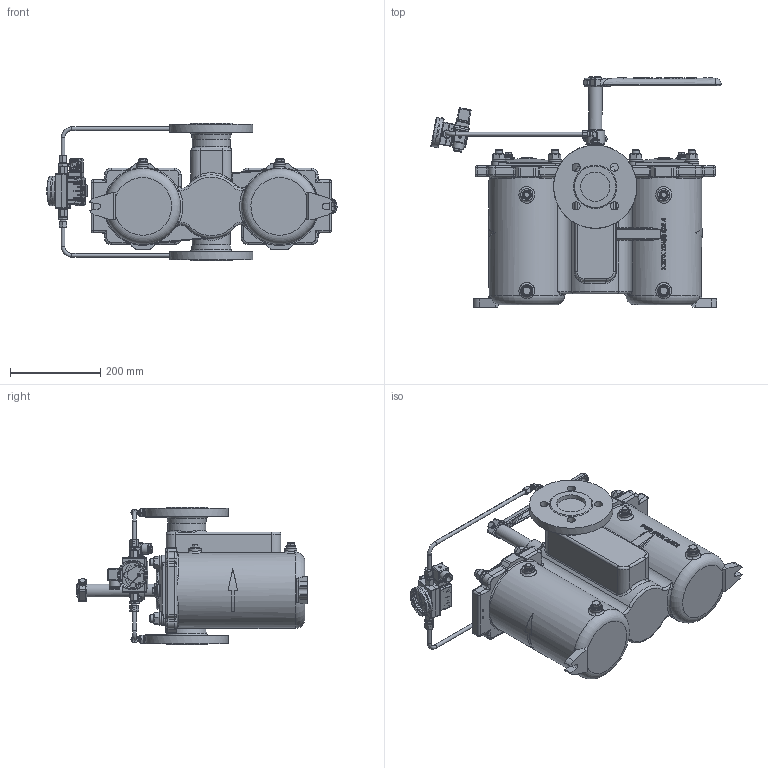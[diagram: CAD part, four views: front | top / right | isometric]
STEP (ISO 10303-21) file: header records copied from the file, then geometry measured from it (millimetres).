
FILE_DESCRIPTION(/* description */ (''),/* implementation_level */ '2;1');
FILE_NAME(/* name */ 'K:\10 - AutoCAD\KDF\KDFK\00_Z.Bau\Modell\Dummy\Dummy_KDFK050.04.05.16.00.01_S.stp',/* time_stamp */ '2015-06-22T12:29:38+02:00',/* author */ ('Eylers'),/* organization */ (''),/* preprocessor_version */ 'ST-DEVELOPER v15.6',/* originating_system */ 'Autodesk Inventor 2015',/* authorisation */ '');
FILE_SCHEMA (('AUTOMOTIVE_DESIGN { 1 0 10303 214 3 1 1 }'));
Products named in the file (1): Dummy_KDFK050.04.05.16.00.01_S
Bounding box: 644.53 x 511.1 x 305 mm (x, y, z)
Volume: 12784.7 mm3; surface area: 984606.1 mm2
Topology: 23 solids, 26 shells, 4520 faces, 11845 edges, 7602 vertices
Faces by surface type: plane 2261, bspline 908, cylinder 844, cone 330, torus 141, sphere 36
Full cylindrical faces by diameter (mm): 0.001 x1, 0.5 x2, 0.6 x1, 1.3 x1, 1.9 x2, 1.921 x1, 2.1 x3, 2.443 x2, 2.5 x9, 2.6 x2, 2.7 x2, 3 x14, 3.1 x7, 3.2 x3, 3.36 x2, 3.4 x1, 3.5 x8, 4.3 x1, 4.917 x8, 4.93 x1, 5 x6, 5.1 x1, 5.2 x2, 5.3 x4, 5.4 x1, 5.5 x5, 5.8 x1, 6 x27, 6.35 x2, 6.4 x2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
Entity records: 214006 total; most frequent: CARTESIAN_POINT 83616, ORIENTED_EDGE 26912, DIRECTION 22680, EDGE_CURVE 13448, VERTEX_POINT 8997, AXIS2_PLACEMENT_3D 7785, LINE 7110, VECTOR 7110
